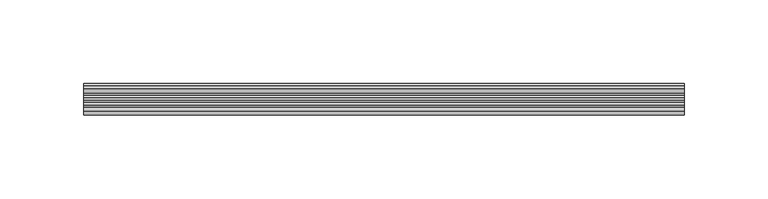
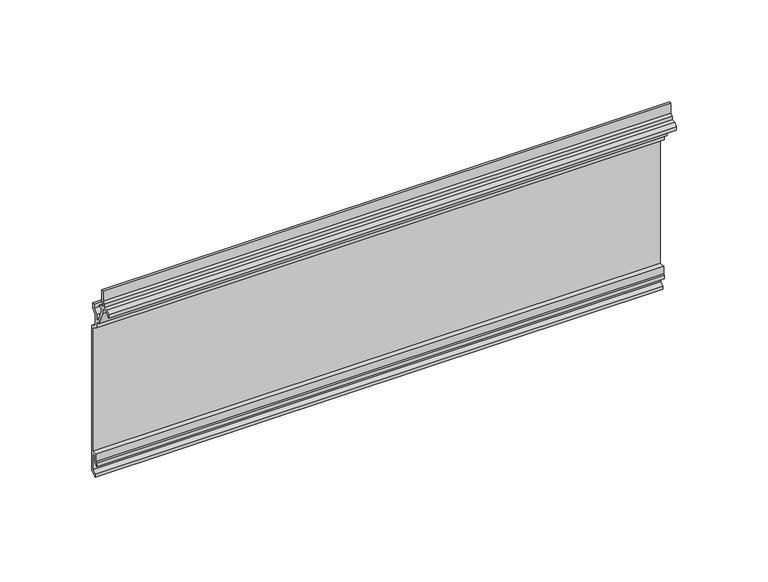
"""IFC4 building model written with IfcOpenShell, lengths in millimetres: plate geometry, FastPlank_P44V-V-Notch-4″-Plank-Horizontal : P44V-V-Notch-4″-Plank-Horizontal."""

from ifc_helpers import new_model, si_unit, frame, origin, place, context, project, spatial, polyline, outline, extrude, source, transform, mapped, element, save


def plate_4b7b00a6(model_context):
    return source(origin(), model_context, "Body", "SweptSolid", [
        extrude(outline(polyline([(18.8745946, 2.3957023), (14.7246029, 0.0), (14.7246029, 1.7319938), (17.3745976, 3.2617795), (17.3745976, 13.9827581), (15.5246013, 13.9827581), (15.5246013, 9.9691576), (13.3162936, 7.7608499), (13.3162936, 9.8794005), (14.0246043, 10.5877112), (14.0246043, 15.4863039), (17.5745972, 15.4863039), (17.5745972, 97.9535307), (13.2246059, 100.4649994), (13.2246059, 104.5739676), (10.7243127, 104.5739676), (6.5338639, 113.9609184), (6.5338639, 116.7763922), (5.0811989, 117.6150887), (2.6937325, 117.6150887), (0.0, 114.9213563), (0.0, 117.0394467), (2.1334241, 118.9150861), (4.7821608, 118.9150861), (4.7821608, 121.2437723), (6.0321583, 122.3427309), (6.0321583, 129.1909904), (7.5321553, 129.1909904), (7.5321553, 120.8578751), (6.2821578, 120.8578751), (6.2821578, 118.3909783), (8.8232117, 118.3909783), (10.3184198, 117.2227937), (9.7191932, 116.4558186), (8.0338609, 116.4558186), (8.0338609, 114.2522203), (11.708109, 106.0486482), (13.2246059, 106.0486482), (13.2246059, 109.2361164), (15.8746006, 111.8861111), (15.8746006, 114.5726601), (17.3745976, 114.5726601), (17.3745976, 111.264792), (14.7246029, 108.6147973), (14.7246029, 101.1000834), (18.8745946, 98.7040846), (18.8745946, 2.3957023)])), frame((-179.0386195, 0.0, 0.0), z_axis=(1.0, 0.0, 0.0), x_axis=(0.0, 1.0, 0.0)), (0.0, 0.0, 1.0), 358.077239),
    ])


if __name__ == "__main__":
    model = new_model("IFC4")
    model_context = context("Model", 3, world=origin())
    ifc_project = project(units=[si_unit("LENGTHUNIT", "METRE", prefix="MILLI")], contexts=[model_context])
    site = spatial("IfcSite", under=ifc_project)
    building = spatial("IfcBuilding", under=site)
    placement = place(None, origin())
    plate_shape = plate_4b7b00a6(model_context)
    element("IfcPlate", 1, ObjectType="FastPlank_P44V-V-Notch-4″-Plank-Horizontal : P44V-V-Notch-4″-Plank-Horizontal", at=placement, inside=building, context=model_context, shape_type="MappedRepresentation", body=[
        mapped(plate_shape, transform((0.0, 0.0, 0.0), x_axis=(1.0, 0.0, 0.0), y_axis=(0.0, 1.0, 0.0), z_axis=(0.0, 0.0, 1.0))),
    ])
    save(model, "model.ifc")
